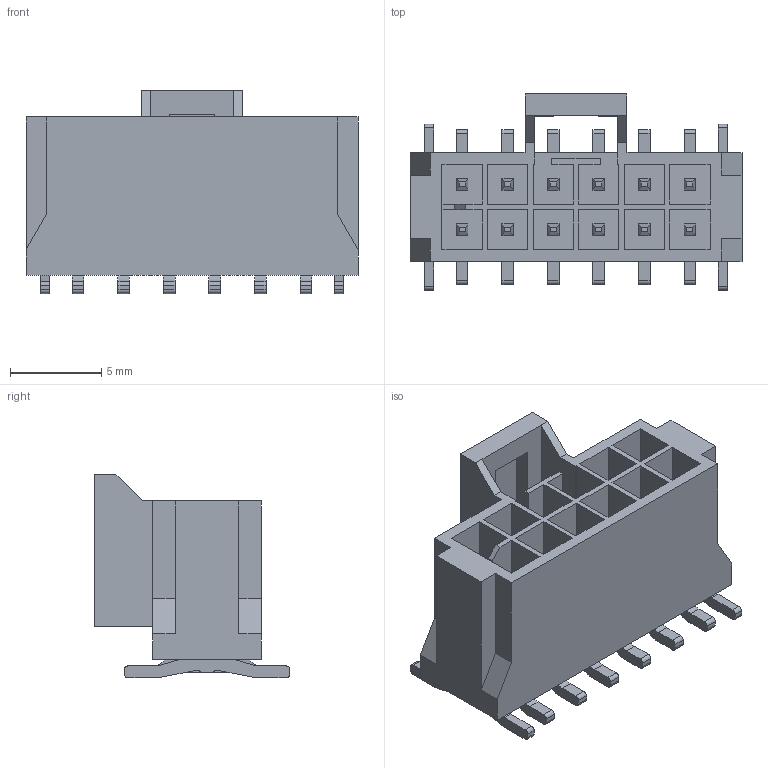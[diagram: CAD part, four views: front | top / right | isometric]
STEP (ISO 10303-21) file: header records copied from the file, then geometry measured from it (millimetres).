
FILE_DESCRIPTION((''),'2;1');
FILE_NAME('1054292112','2019-01-29T',('gga'),(''),'PRO/ENGINEER BY PARAMETRIC TECHNOLOGY CORPORATION, 2016010','PRO/ENGINEER BY PARAMETRIC TECHNOLOGY CORPORATION, 2016010','');
FILE_SCHEMA(('CONFIG_CONTROL_DESIGN'));
Length unit declared in the file: millimetre
Products named in the file (1): 1054292112
Bounding box: 18.23 x 10.75 x 11.16 mm (x, y, z)
Volume: 651.8 mm3; surface area: 1715.2 mm2
Topology: 1 solids, 1 shells, 386 faces, 1077 edges, 720 vertices
Faces by surface type: plane 302, cylinder 84
Entity records: 12194 total; most frequent: CARTESIAN_POINT 2128, ORIENTED_EDGE 2042, DIRECTION 2019, EDGE_CURVE 1021, VECTOR 909, LINE 909, VERTEX_POINT 664, AXIS2_PLACEMENT_3D 555
